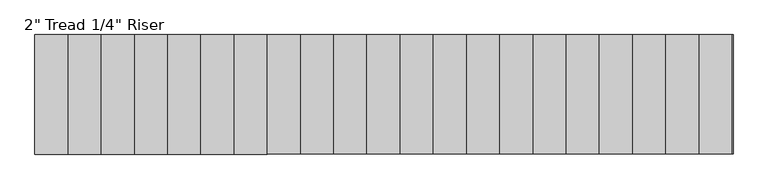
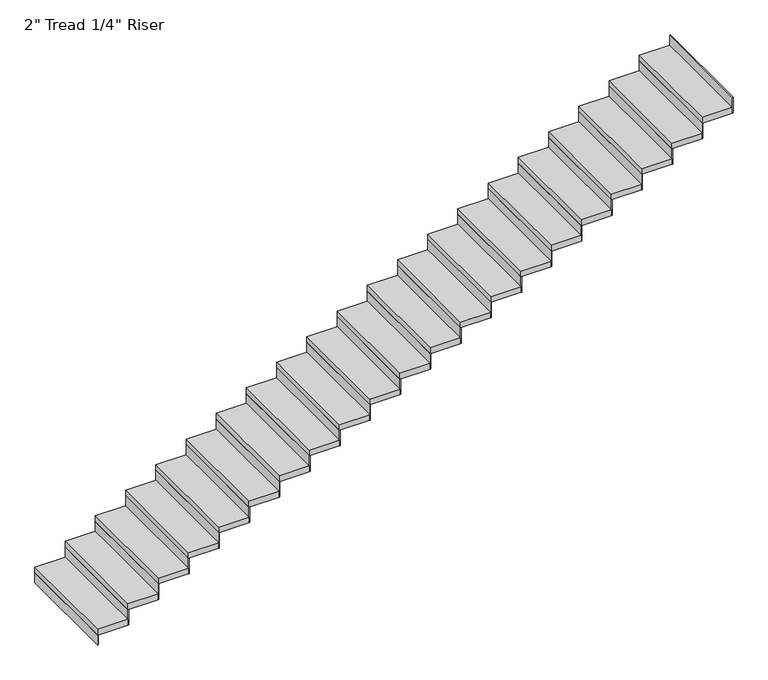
"""IFC4 building model written with IfcOpenShell, lengths in millimetres: stair flight geometry."""

from ifc_helpers import new_model, si_unit, frame, origin, origin_with_axes, place, context, project, spatial, polyline, outline, extrude, source, transform, mapped, element, save


def stair_flight_70ecf729(model_context):
    return source(origin(), model_context, "Body", "SweptSolid", [
        extrude(outline(polyline([(60455.5527721, 48800.1946767), (60449.2027721, 48800.1946767), (60449.2027721, 49714.5946767), (60455.5527721, 49714.5946767), (60455.5527721, 48800.1946767)])), origin_with_axes(), (0.0, 0.0, 1.0), 87.7454545),
        extrude(outline(polyline([(60703.2027721, 49714.5946767), (60703.2027721, 48800.1946767), (60449.2027721, 48800.1946767), (60449.2027721, 49714.5946767), (60703.2027721, 49714.5946767)])), frame((0.0, 0.0, 87.7454545), z_axis=(0.0, 0.0, 1.0), x_axis=(1.0, 0.0, 0.0)), (0.0, 0.0, 1.0), 50.8),
        extrude(outline(polyline([(60709.5527721, 48800.1946767), (60703.2027721, 48800.1946767), (60703.2027721, 49714.5946767), (60709.5527721, 49714.5946767), (60709.5527721, 48800.1946767)])), frame((0.0, 0.0, 87.7454545), z_axis=(0.0, 0.0, 1.0), x_axis=(1.0, 0.0, 0.0)), (0.0, 0.0, 1.0), 138.5454545),
        extrude(outline(polyline([(60957.2027721, 49714.5946767), (60957.2027721, 48800.1946767), (60703.2027721, 48800.1946767), (60703.2027721, 49714.5946767), (60957.2027721, 49714.5946767)])), frame((0.0, 0.0, 226.2909091), z_axis=(0.0, 0.0, 1.0), x_axis=(1.0, 0.0, 0.0)), (0.0, 0.0, 1.0), 50.8),
        extrude(outline(polyline([(60963.5527721, 48800.1946767), (60957.2027721, 48800.1946767), (60957.2027721, 49714.5946767), (60963.5527721, 49714.5946767), (60963.5527721, 48800.1946767)])), frame((0.0, 0.0, 226.2909091), z_axis=(0.0, 0.0, 1.0), x_axis=(1.0, 0.0, 0.0)), (0.0, 0.0, 1.0), 138.5454545),
        extrude(outline(polyline([(61211.2027721, 49714.5946767), (61211.2027721, 48800.1946767), (60957.2027721, 48800.1946767), (60957.2027721, 49714.5946767), (61211.2027721, 49714.5946767)])), frame((0.0, 0.0, 364.8363636), z_axis=(0.0, 0.0, 1.0), x_axis=(1.0, 0.0, 0.0)), (0.0, 0.0, 1.0), 50.8),
        extrude(outline(polyline([(61217.5527721, 48800.1946767), (61211.2027721, 48800.1946767), (61211.2027721, 49714.5946767), (61217.5527721, 49714.5946767), (61217.5527721, 48800.1946767)])), frame((0.0, 0.0, 364.8363636), z_axis=(0.0, 0.0, 1.0), x_axis=(1.0, 0.0, 0.0)), (0.0, 0.0, 1.0), 138.5454545),
        extrude(outline(polyline([(61465.2027721, 49714.5946767), (61465.2027721, 48800.1946767), (61211.2027721, 48800.1946767), (61211.2027721, 49714.5946767), (61465.2027721, 49714.5946767)])), frame((0.0, 0.0, 503.3818182), z_axis=(0.0, 0.0, 1.0), x_axis=(1.0, 0.0, 0.0)), (0.0, 0.0, 1.0), 50.8),
        extrude(outline(polyline([(61471.5527721, 48800.1946767), (61465.2027721, 48800.1946767), (61465.2027721, 49714.5946767), (61471.5527721, 49714.5946767), (61471.5527721, 48800.1946767)])), frame((0.0, 0.0, 503.3818182), z_axis=(0.0, 0.0, 1.0), x_axis=(1.0, 0.0, 0.0)), (0.0, 0.0, 1.0), 138.5454545),
        extrude(outline(polyline([(61719.2027721, 49714.5946767), (61719.2027721, 48800.1946767), (61465.2027721, 48800.1946767), (61465.2027721, 49714.5946767), (61719.2027721, 49714.5946767)])), frame((0.0, 0.0, 641.9272727), z_axis=(0.0, 0.0, 1.0), x_axis=(1.0, 0.0, 0.0)), (0.0, 0.0, 1.0), 50.8),
        extrude(outline(polyline([(61725.5527721, 48800.1946767), (61719.2027721, 48800.1946767), (61719.2027721, 49714.5946767), (61725.5527721, 49714.5946767), (61725.5527721, 48800.1946767)])), frame((0.0, 0.0, 641.9272727), z_axis=(0.0, 0.0, 1.0), x_axis=(1.0, 0.0, 0.0)), (0.0, 0.0, 1.0), 138.5454545),
        extrude(outline(polyline([(61973.2027721, 49714.5946767), (61973.2027721, 48800.1946767), (61719.2027721, 48800.1946767), (61719.2027721, 49714.5946767), (61973.2027721, 49714.5946767)])), frame((0.0, 0.0, 780.4727273), z_axis=(0.0, 0.0, 1.0), x_axis=(1.0, 0.0, 0.0)), (0.0, 0.0, 1.0), 50.8),
        extrude(outline(polyline([(61979.5527721, 48800.1946767), (61973.2027721, 48800.1946767), (61973.2027721, 49714.5946767), (61979.5527721, 49714.5946767), (61979.5527721, 48800.1946767)])), frame((0.0, 0.0, 780.4727273), z_axis=(0.0, 0.0, 1.0), x_axis=(1.0, 0.0, 0.0)), (0.0, 0.0, 1.0), 138.5454545),
        extrude(outline(polyline([(62227.2027721, 49714.5946767), (62227.2027721, 48800.1946767), (61973.2027721, 48800.1946767), (61973.2027721, 49714.5946767), (62227.2027721, 49714.5946767)])), frame((0.0, 0.0, 919.0181818), z_axis=(0.0, 0.0, 1.0), x_axis=(1.0, 0.0, 0.0)), (0.0, 0.0, 1.0), 50.8),
        extrude(outline(polyline([(62233.5527721, 48800.1946767), (62227.2027721, 48800.1946767), (62227.2027721, 49714.5946767), (62233.5527721, 49714.5946767), (62233.5527721, 48800.1946767)])), frame((0.0, 0.0, 919.0181818), z_axis=(0.0, 0.0, 1.0), x_axis=(1.0, 0.0, 0.0)), (0.0, 0.0, 1.0), 138.5454545),
        extrude(outline(polyline([(62481.2027721, 49714.5946767), (62481.2027721, 48800.1946767), (62227.2027721, 48800.1946767), (62227.2027721, 49714.5946767), (62481.2027721, 49714.5946767)])), frame((0.0, 0.0, 1057.5636364), z_axis=(0.0, 0.0, 1.0), x_axis=(1.0, 0.0, 0.0)), (0.0, 0.0, 1.0), 50.8),
        extrude(outline(polyline([(62487.5527721, 48800.1946767), (62481.2027721, 48800.1946767), (62481.2027721, 49714.5946767), (62487.5527721, 49714.5946767), (62487.5527721, 48800.1946767)])), frame((0.0, 0.0, 1057.5636364), z_axis=(0.0, 0.0, 1.0), x_axis=(1.0, 0.0, 0.0)), (0.0, 0.0, 1.0), 138.5454545),
        extrude(outline(polyline([(62735.2027721, 49714.5946767), (62735.2027721, 48800.1946767), (62481.2027721, 48800.1946767), (62481.2027721, 49714.5946767), (62735.2027721, 49714.5946767)])), frame((0.0, 0.0, 1196.1090909), z_axis=(0.0, 0.0, 1.0), x_axis=(1.0, 0.0, 0.0)), (0.0, 0.0, 1.0), 50.8),
        extrude(outline(polyline([(62741.5527721, 48800.1946767), (62735.2027721, 48800.1946767), (62735.2027721, 49714.5946767), (62741.5527721, 49714.5946767), (62741.5527721, 48800.1946767)])), frame((0.0, 0.0, 1196.1090909), z_axis=(0.0, 0.0, 1.0), x_axis=(1.0, 0.0, 0.0)), (0.0, 0.0, 1.0), 138.5454545),
        extrude(outline(polyline([(62989.2027721, 49714.5946767), (62989.2027721, 48800.1946767), (62735.2027721, 48800.1946767), (62735.2027721, 49714.5946767), (62989.2027721, 49714.5946767)])), frame((0.0, 0.0, 1334.6545455), z_axis=(0.0, 0.0, 1.0), x_axis=(1.0, 0.0, 0.0)), (0.0, 0.0, 1.0), 50.8),
        extrude(outline(polyline([(62995.5527721, 48800.1946767), (62989.2027721, 48800.1946767), (62989.2027721, 49714.5946767), (62995.5527721, 49714.5946767), (62995.5527721, 48800.1946767)])), frame((0.0, 0.0, 1334.6545455), z_axis=(0.0, 0.0, 1.0), x_axis=(1.0, 0.0, 0.0)), (0.0, 0.0, 1.0), 138.5454545),
        extrude(outline(polyline([(63243.2027721, 49714.5946767), (63243.2027721, 48800.1946767), (62989.2027721, 48800.1946767), (62989.2027721, 49714.5946767), (63243.2027721, 49714.5946767)])), frame((0.0, 0.0, 1473.2), z_axis=(0.0, 0.0, 1.0), x_axis=(1.0, 0.0, 0.0)), (0.0, 0.0, 1.0), 50.8),
        extrude(outline(polyline([(63249.5527721, 48800.1946767), (63243.2027721, 48800.1946767), (63243.2027721, 49714.5946767), (63249.5527721, 49714.5946767), (63249.5527721, 48800.1946767)])), frame((0.0, 0.0, 1473.2), z_axis=(0.0, 0.0, 1.0), x_axis=(1.0, 0.0, 0.0)), (0.0, 0.0, 1.0), 138.5454545),
        extrude(outline(polyline([(63497.2027721, 49714.5946767), (63497.2027721, 48800.1946767), (63243.2027721, 48800.1946767), (63243.2027721, 49714.5946767), (63497.2027721, 49714.5946767)])), frame((0.0, 0.0, 1611.7454545), z_axis=(0.0, 0.0, 1.0), x_axis=(1.0, 0.0, 0.0)), (0.0, 0.0, 1.0), 50.8),
        extrude(outline(polyline([(63503.5527721, 48800.1946767), (63497.2027721, 48800.1946767), (63497.2027721, 49714.5946767), (63503.5527721, 49714.5946767), (63503.5527721, 48800.1946767)])), frame((0.0, 0.0, 1611.7454545), z_axis=(0.0, 0.0, 1.0), x_axis=(1.0, 0.0, 0.0)), (0.0, 0.0, 1.0), 138.5454545),
        extrude(outline(polyline([(63751.2027721, 49714.5946767), (63751.2027721, 48800.1946767), (63497.2027721, 48800.1946767), (63497.2027721, 49714.5946767), (63751.2027721, 49714.5946767)])), frame((0.0, 0.0, 1750.2909091), z_axis=(0.0, 0.0, 1.0), x_axis=(1.0, 0.0, 0.0)), (0.0, 0.0, 1.0), 50.8),
        extrude(outline(polyline([(63757.5527721, 48800.1946767), (63751.2027721, 48800.1946767), (63751.2027721, 49714.5946767), (63757.5527721, 49714.5946767), (63757.5527721, 48800.1946767)])), frame((0.0, 0.0, 1750.2909091), z_axis=(0.0, 0.0, 1.0), x_axis=(1.0, 0.0, 0.0)), (0.0, 0.0, 1.0), 138.5454545),
        extrude(outline(polyline([(64005.2027721, 49714.5946767), (64005.2027721, 48800.1946767), (63751.2027721, 48800.1946767), (63751.2027721, 49714.5946767), (64005.2027721, 49714.5946767)])), frame((0.0, 0.0, 1888.8363636), z_axis=(0.0, 0.0, 1.0), x_axis=(1.0, 0.0, 0.0)), (0.0, 0.0, 1.0), 50.8),
        extrude(outline(polyline([(64011.5527721, 48800.1946767), (64005.2027721, 48800.1946767), (64005.2027721, 49714.5946767), (64011.5527721, 49714.5946767), (64011.5527721, 48800.1946767)])), frame((0.0, 0.0, 1888.8363636), z_axis=(0.0, 0.0, 1.0), x_axis=(1.0, 0.0, 0.0)), (0.0, 0.0, 1.0), 138.5454545),
        extrude(outline(polyline([(64259.2027721, 49714.5946767), (64259.2027721, 48800.1946767), (64005.2027721, 48800.1946767), (64005.2027721, 49714.5946767), (64259.2027721, 49714.5946767)])), frame((0.0, 0.0, 2027.3818182), z_axis=(0.0, 0.0, 1.0), x_axis=(1.0, 0.0, 0.0)), (0.0, 0.0, 1.0), 50.8),
        extrude(outline(polyline([(64265.5527721, 48800.1946767), (64259.2027721, 48800.1946767), (64259.2027721, 49714.5946767), (64265.5527721, 49714.5946767), (64265.5527721, 48800.1946767)])), frame((0.0, 0.0, 2027.3818182), z_axis=(0.0, 0.0, 1.0), x_axis=(1.0, 0.0, 0.0)), (0.0, 0.0, 1.0), 138.5454545),
        extrude(outline(polyline([(64513.2027721, 49714.5946767), (64513.2027721, 48800.1946767), (64259.2027721, 48800.1946767), (64259.2027721, 49714.5946767), (64513.2027721, 49714.5946767)])), frame((0.0, 0.0, 2165.9272727), z_axis=(0.0, 0.0, 1.0), x_axis=(1.0, 0.0, 0.0)), (0.0, 0.0, 1.0), 50.8),
        extrude(outline(polyline([(64519.5527721, 48800.1946767), (64513.2027721, 48800.1946767), (64513.2027721, 49714.5946767), (64519.5527721, 49714.5946767), (64519.5527721, 48800.1946767)])), frame((0.0, 0.0, 2165.9272727), z_axis=(0.0, 0.0, 1.0), x_axis=(1.0, 0.0, 0.0)), (0.0, 0.0, 1.0), 138.5454545),
        extrude(outline(polyline([(64767.2027721, 49714.5946767), (64767.2027721, 48800.1946767), (64513.2027721, 48800.1946767), (64513.2027721, 49714.5946767), (64767.2027721, 49714.5946767)])), frame((0.0, 0.0, 2304.4727273), z_axis=(0.0, 0.0, 1.0), x_axis=(1.0, 0.0, 0.0)), (0.0, 0.0, 1.0), 50.8),
        extrude(outline(polyline([(64773.5527721, 48800.1946767), (64767.2027721, 48800.1946767), (64767.2027721, 49714.5946767), (64773.5527721, 49714.5946767), (64773.5527721, 48800.1946767)])), frame((0.0, 0.0, 2304.4727273), z_axis=(0.0, 0.0, 1.0), x_axis=(1.0, 0.0, 0.0)), (0.0, 0.0, 1.0), 138.5454545),
        extrude(outline(polyline([(65021.2027721, 49714.5946767), (65021.2027721, 48800.1946767), (64767.2027721, 48800.1946767), (64767.2027721, 49714.5946767), (65021.2027721, 49714.5946767)])), frame((0.0, 0.0, 2443.0181818), z_axis=(0.0, 0.0, 1.0), x_axis=(1.0, 0.0, 0.0)), (0.0, 0.0, 1.0), 50.8),
        extrude(outline(polyline([(65027.5527721, 48800.1946767), (65021.2027721, 48800.1946767), (65021.2027721, 49714.5946767), (65027.5527721, 49714.5946767), (65027.5527721, 48800.1946767)])), frame((0.0, 0.0, 2443.0181818), z_axis=(0.0, 0.0, 1.0), x_axis=(1.0, 0.0, 0.0)), (0.0, 0.0, 1.0), 138.5454545),
        extrude(outline(polyline([(65275.2027721, 49714.5946767), (65275.2027721, 48800.1946767), (65021.2027721, 48800.1946767), (65021.2027721, 49714.5946767), (65275.2027721, 49714.5946767)])), frame((0.0, 0.0, 2581.5636364), z_axis=(0.0, 0.0, 1.0), x_axis=(1.0, 0.0, 0.0)), (0.0, 0.0, 1.0), 50.8),
        extrude(outline(polyline([(65281.5527721, 48800.1946767), (65275.2027721, 48800.1946767), (65275.2027721, 49714.5946767), (65281.5527721, 49714.5946767), (65281.5527721, 48800.1946767)])), frame((0.0, 0.0, 2581.5636364), z_axis=(0.0, 0.0, 1.0), x_axis=(1.0, 0.0, 0.0)), (0.0, 0.0, 1.0), 138.5454545),
        extrude(outline(polyline([(65529.2027721, 49714.5946767), (65529.2027721, 48800.1946767), (65275.2027721, 48800.1946767), (65275.2027721, 49714.5946767), (65529.2027721, 49714.5946767)])), frame((0.0, 0.0, 2720.1090909), z_axis=(0.0, 0.0, 1.0), x_axis=(1.0, 0.0, 0.0)), (0.0, 0.0, 1.0), 50.8),
        extrude(outline(polyline([(65535.5527721, 48800.1946767), (65529.2027721, 48800.1946767), (65529.2027721, 49714.5946767), (65535.5527721, 49714.5946767), (65535.5527721, 48800.1946767)])), frame((0.0, 0.0, 2720.1090909), z_axis=(0.0, 0.0, 1.0), x_axis=(1.0, 0.0, 0.0)), (0.0, 0.0, 1.0), 138.5454545),
        extrude(outline(polyline([(65789.5527721, 48800.1946767), (65783.2027721, 48800.1946767), (65783.2027721, 49714.5946767), (65789.5527721, 49714.5946767), (65789.5527721, 48800.1946767)])), frame((0.0, 0.0, 2858.6545455), z_axis=(0.0, 0.0, 1.0), x_axis=(1.0, 0.0, 0.0)), (0.0, 0.0, 1.0), 138.5454545),
        extrude(outline(polyline([(65783.2027721, 49714.5946767), (65783.2027721, 48800.1946767), (65529.2027721, 48800.1946767), (65529.2027721, 49714.5946767), (65783.2027721, 49714.5946767)])), frame((0.0, 0.0, 2858.6545455), z_axis=(0.0, 0.0, 1.0), x_axis=(1.0, 0.0, 0.0)), (0.0, 0.0, 1.0), 50.8),
    ])


if __name__ == "__main__":
    model = new_model("IFC4")
    model_context = context("Model", 3, world=origin())
    ifc_project = project(units=[si_unit("LENGTHUNIT", "METRE", prefix="MILLI")], contexts=[model_context])
    site = spatial("IfcSite", under=ifc_project)
    building = spatial("IfcBuilding", under=site)
    placement = place(None, origin())
    stair_flight_shape = stair_flight_70ecf729(model_context)
    element("IfcStairFlight", 1, ObjectType="2\" Tread 1/4\" Riser", at=placement, inside=building, context=model_context, shape_type="MappedRepresentation", body=[
        mapped(stair_flight_shape, transform((0.0, 0.0, 0.0), x_axis=(1.0, 0.0, 0.0), y_axis=(0.0, 1.0, 0.0), z_axis=(0.0, 0.0, 1.0))),
    ])
    save(model, "model.ifc")
